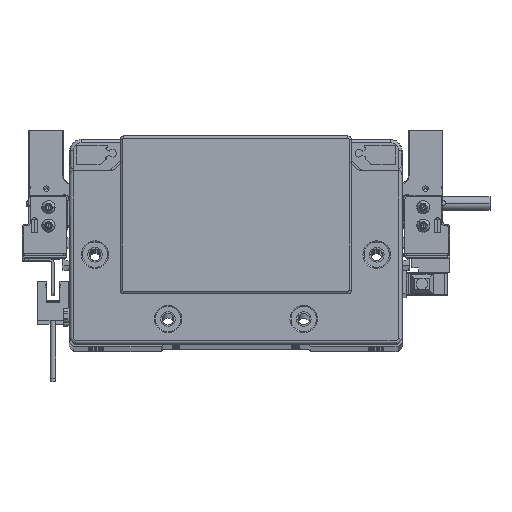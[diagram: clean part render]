
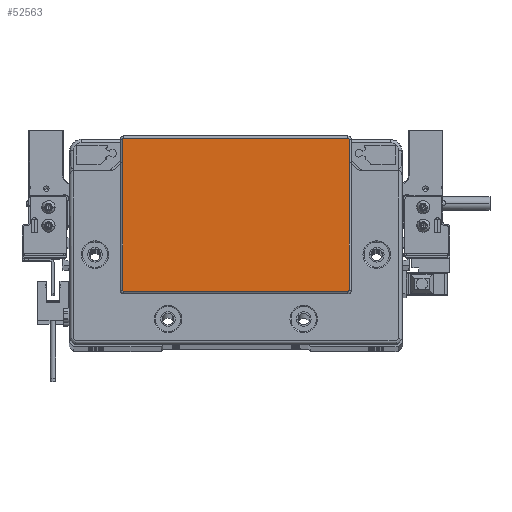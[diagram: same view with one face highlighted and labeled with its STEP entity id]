
A CAD part, top view. The second image highlights one B-rep face of the part: STEP entity #52563.
In plain terms, the highlighted planar face has unit normal (0, 0, 1) as drawn and (0, 0, -1) by its records, which use the part's own axes.
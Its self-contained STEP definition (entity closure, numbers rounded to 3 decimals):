
#496 = EDGE_CURVE ( 'NONE', #76413, #67211, #44805, .T. ) ;
#2556 = CARTESIAN_POINT ( 'NONE',  ( 48.75, 44.3, -2. ) ) ;
#2620 = CIRCLE ( 'NONE', #83891, 0.5 ) ;
#3229 = CARTESIAN_POINT ( 'NONE',  ( 48.75, 43.8, -2. ) ) ;
#4833 = LINE ( 'NONE', #5310, #30376 ) ;
#5310 = CARTESIAN_POINT ( 'NONE',  ( -48.75, -22.3, -2. ) ) ;
#9508 = ORIENTED_EDGE ( 'NONE', *, *, #41471, .T. ) ;
#10421 = VERTEX_POINT ( 'NONE', #51296 ) ;
#10799 = CARTESIAN_POINT ( 'NONE',  ( 48.75, -21.8, -2. ) ) ;
#12006 = EDGE_CURVE ( 'NONE', #67211, #91276, #32684, .T. ) ;
#12899 = CIRCLE ( 'NONE', #46676, 0.5 ) ;
#15176 = CARTESIAN_POINT ( 'NONE',  ( 48.75, 44.3, -2. ) ) ;
#15211 = CIRCLE ( 'NONE', #21310, 0.5 ) ;
#15934 = CARTESIAN_POINT ( 'NONE',  ( -49.25, 43.8, -2. ) ) ;
#16579 = VERTEX_POINT ( 'NONE', #50965 ) ;
#18964 = DIRECTION ( 'NONE',  ( -1., 0., 0. ) ) ;
#19076 = DIRECTION ( 'NONE',  ( 0., 0., -1. ) ) ;
#19935 = DIRECTION ( 'NONE',  ( 0., -1., 0. ) ) ;
#21310 = AXIS2_PLACEMENT_3D ( 'NONE', #3229, #90646, #62361 ) ;
#22251 = VECTOR ( 'NONE', #86085, 1000. ) ;
#26169 = DIRECTION ( 'NONE',  ( 0., 0., -1. ) ) ;
#27229 = FACE_OUTER_BOUND ( 'NONE', #79831, .T. ) ;
#27616 = DIRECTION ( 'NONE',  ( 0., 0., -1. ) ) ;
#29439 = CARTESIAN_POINT ( 'NONE',  ( -49.25, -21.8, -2. ) ) ;
#29519 = EDGE_CURVE ( 'NONE', #84758, #80839, #15211, .T. ) ;
#30376 = VECTOR ( 'NONE', #63466, 1000. ) ;
#32684 = CIRCLE ( 'NONE', #38840, 0.5 ) ;
#35337 = EDGE_CURVE ( 'NONE', #16579, #76413, #12899, .T. ) ;
#35795 = DIRECTION ( 'NONE',  ( -1., 0., 0. ) ) ;
#36270 = CARTESIAN_POINT ( 'NONE',  ( -48.75, 43.8, -2. ) ) ;
#36742 = DIRECTION ( 'NONE',  ( 0., 0., -1. ) ) ;
#38306 = VERTEX_POINT ( 'NONE', #86714 ) ;
#38840 = AXIS2_PLACEMENT_3D ( 'NONE', #36270, #36742, #35795 ) ;
#40714 = CARTESIAN_POINT ( 'NONE',  ( 0., 0., -2. ) ) ;
#41471 = EDGE_CURVE ( 'NONE', #38306, #16579, #4833, .T. ) ;
#43840 = ORIENTED_EDGE ( 'NONE', *, *, #29519, .T. ) ;
#44805 = LINE ( 'NONE', #15934, #45248 ) ;
#45248 = VECTOR ( 'NONE', #89390, 1000. ) ;
#46676 = AXIS2_PLACEMENT_3D ( 'NONE', #87156, #27616, #58382 ) ;
#48435 = DIRECTION ( 'NONE',  ( -1., 0., 0. ) ) ;
#48814 = LINE ( 'NONE', #78074, #62818 ) ;
#50965 = CARTESIAN_POINT ( 'NONE',  ( -48.75, -22.3, -2. ) ) ;
#51296 = CARTESIAN_POINT ( 'NONE',  ( 49.25, -21.8, -2. ) ) ;
#52563 = ADVANCED_FACE ( 'NONE', ( #27229 ), #84396, .T. ) ;
#57831 = EDGE_CURVE ( 'NONE', #10421, #38306, #2620, .T. ) ;
#58382 = DIRECTION ( 'NONE',  ( -1., 0., 0. ) ) ;
#59873 = ORIENTED_EDGE ( 'NONE', *, *, #496, .T. ) ;
#62361 = DIRECTION ( 'NONE',  ( -1., 0., 0. ) ) ;
#62818 = VECTOR ( 'NONE', #19935, 1000. ) ;
#63466 = DIRECTION ( 'NONE',  ( -1., 0., 0. ) ) ;
#65428 = ORIENTED_EDGE ( 'NONE', *, *, #57831, .T. ) ;
#67157 = ORIENTED_EDGE ( 'NONE', *, *, #12006, .T. ) ;
#67211 = VERTEX_POINT ( 'NONE', #93870 ) ;
#69563 = ORIENTED_EDGE ( 'NONE', *, *, #35337, .T. ) ;
#70308 = LINE ( 'NONE', #2556, #22251 ) ;
#70882 = EDGE_CURVE ( 'NONE', #91276, #84758, #70308, .T. ) ;
#74231 = CARTESIAN_POINT ( 'NONE',  ( 49.25, 43.8, -2. ) ) ;
#76413 = VERTEX_POINT ( 'NONE', #29439 ) ;
#78074 = CARTESIAN_POINT ( 'NONE',  ( 49.25, -21.8, -2. ) ) ;
#79831 = EDGE_LOOP ( 'NONE', ( #86787, #65428, #9508, #69563, #59873, #67157, #79872, #43840 ) ) ;
#79872 = ORIENTED_EDGE ( 'NONE', *, *, #70882, .T. ) ;
#80839 = VERTEX_POINT ( 'NONE', #74231 ) ;
#83891 = AXIS2_PLACEMENT_3D ( 'NONE', #10799, #26169, #18964 ) ;
#84396 = PLANE ( 'NONE',  #91027 ) ;
#84758 = VERTEX_POINT ( 'NONE', #15176 ) ;
#86085 = DIRECTION ( 'NONE',  ( 1., 0., 0. ) ) ;
#86714 = CARTESIAN_POINT ( 'NONE',  ( 48.75, -22.3, -2. ) ) ;
#86787 = ORIENTED_EDGE ( 'NONE', *, *, #87916, .T. ) ;
#87156 = CARTESIAN_POINT ( 'NONE',  ( -48.75, -21.8, -2. ) ) ;
#87916 = EDGE_CURVE ( 'NONE', #80839, #10421, #48814, .T. ) ;
#89390 = DIRECTION ( 'NONE',  ( 0., 1., 0. ) ) ;
#89753 = CARTESIAN_POINT ( 'NONE',  ( -48.75, 44.3, -2. ) ) ;
#90646 = DIRECTION ( 'NONE',  ( 0., 0., -1. ) ) ;
#91027 = AXIS2_PLACEMENT_3D ( 'NONE', #40714, #19076, #48435 ) ;
#91276 = VERTEX_POINT ( 'NONE', #89753 ) ;
#93870 = CARTESIAN_POINT ( 'NONE',  ( -49.25, 43.8, -2. ) ) ;
